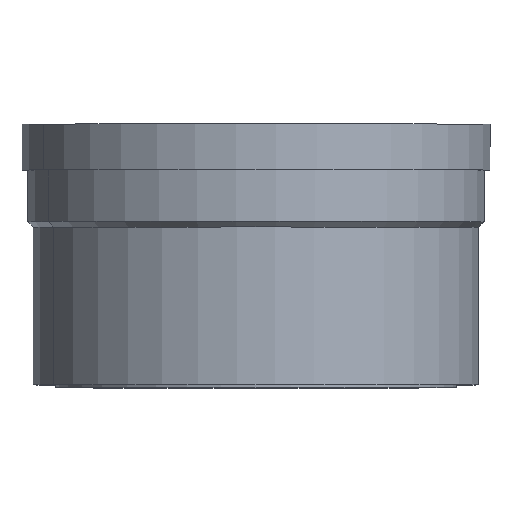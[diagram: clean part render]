
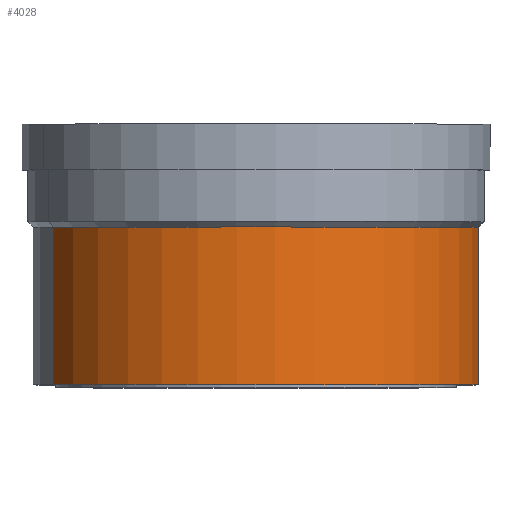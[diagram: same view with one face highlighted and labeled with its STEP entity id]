
A CAD part, top view. The second image highlights one B-rep face of the part: STEP entity #4028.
In plain terms, the highlighted cylindrical face has radius 39 mm (diameter 78 mm), a partial arc.
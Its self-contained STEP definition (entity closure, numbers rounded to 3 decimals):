
#392=CARTESIAN_POINT('',(0.,-4.,0.));
#393=DIRECTION('',(0.,1.,0.));
#394=DIRECTION('',(-0.906,0.,0.423));
#395=AXIS2_PLACEMENT_3D('',#392,#393,#394);
#397=DIRECTION('',(0.,-1.,0.));
#398=VECTOR('',#397,27.5);
#399=CARTESIAN_POINT('',(-35.346,-4.,16.482));
#400=LINE('',#399,#398);
#401=DIRECTION('',(0.,1.,0.));
#402=VECTOR('',#401,27.5);
#403=CARTESIAN_POINT('',(35.346,-31.5,-16.482));
#404=LINE('',#403,#402);
#415=CARTESIAN_POINT('',(0.,-31.5,0.));
#416=DIRECTION('',(0.,1.,0.));
#417=DIRECTION('',(-0.906,0.,0.423));
#418=AXIS2_PLACEMENT_3D('',#415,#416,#417);
#3093=CARTESIAN_POINT('',(-35.346,-4.,16.482));
#3095=VERTEX_POINT('',#3093);
#3098=CARTESIAN_POINT('',(35.346,-4.,
-16.482));
#3100=VERTEX_POINT('',#3098);
#3101=CARTESIAN_POINT('',(-35.346,-31.5,16.482));
#3102=VERTEX_POINT('',#3101);
#3103=CARTESIAN_POINT('',(35.346,-31.5,-16.482));
#3104=VERTEX_POINT('',#3103);
#4014=CARTESIAN_POINT('',(0.,-32.05,0.));
#4015=DIRECTION('',(0.,1.,0.));
#4016=DIRECTION('',(0.906,0.,-0.423));
#4017=AXIS2_PLACEMENT_3D('',#4014,#4015,#4016);
#4018=CYLINDRICAL_SURFACE('',#4017,39.);
#4020=ORIENTED_EDGE('',*,*,#4019,.F.);
#4021=ORIENTED_EDGE('',*,*,#4009,.T.);
#4023=ORIENTED_EDGE('',*,*,#4022,.F.);
#4025=ORIENTED_EDGE('',*,*,#4024,.F.);
#4026=EDGE_LOOP('',(#4020,#4021,#4023,#4025));
#4027=FACE_OUTER_BOUND('',#4026,.F.);
#396=CIRCLE('',#395,39.);
#419=CIRCLE('',#418,39.);
#4009=EDGE_CURVE('',#3095,#3100,#396,.T.);
#4019=EDGE_CURVE('',#3095,#3102,#400,.T.);
#4022=EDGE_CURVE('',#3104,#3100,#404,.T.);
#4024=EDGE_CURVE('',#3102,#3104,#419,.T.);
#4028=ADVANCED_FACE('',(#4027),#4018,.T.);
